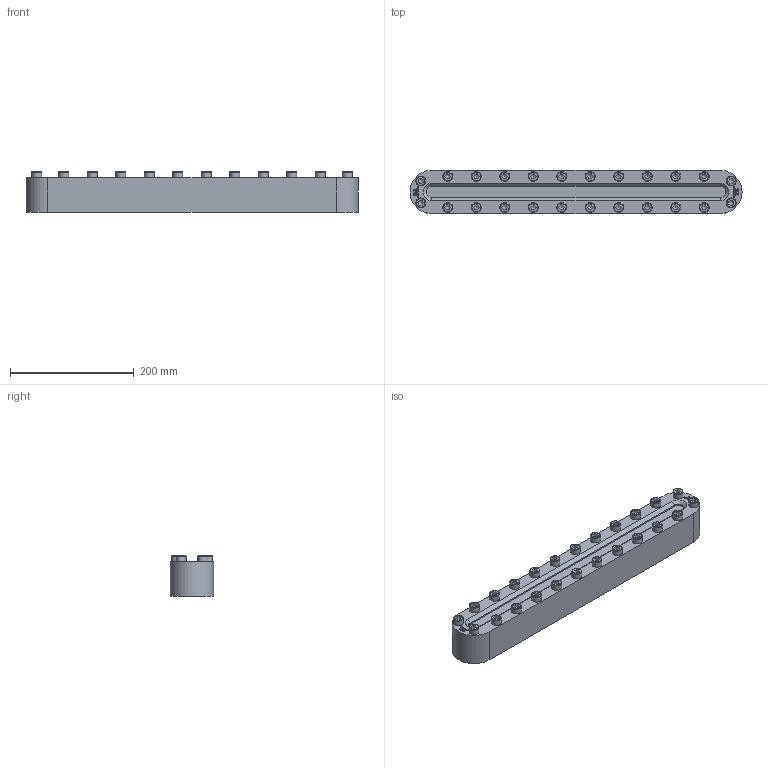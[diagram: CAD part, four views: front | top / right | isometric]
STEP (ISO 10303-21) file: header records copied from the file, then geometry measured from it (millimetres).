
FILE_DESCRIPTION(/* description */ (''),/* implementation_level */ '2;1');
FILE_NAME(/* name */ 'W:\Konstruktion_ACI\337\STEP\ACI-337-536-25.stp',/* time_stamp */ '2022-03-22T08:09:58+01:00',/* author */ ('Travnicek'),/* organization */ (''),/* preprocessor_version */ 'ST-DEVELOPER v16.1',/* originating_system */ 'Autodesk Inventor 2016',/* authorisation */ '');
FILE_SCHEMA (('AUTOMOTIVE_DESIGN { 1 0 10303 214 3 1 1 }'));
Length unit declared in the file: centimetre
Products named in the file (1): 337
Bounding box: 536 x 70 x 65.9 mm (x, y, z)
Volume: 1832118.7 mm3; surface area: 177276.9 mm2
Topology: 1 solids, 1 shells, 680 faces, 1796 edges, 1180 vertices
Faces by surface type: plane 394, bspline 206, cylinder 30, cone 26, torus 24
Full cylindrical faces by diameter (mm): 16 x24
Entity records: 21815 total; most frequent: CARTESIAN_POINT 6503, ORIENTED_EDGE 3400, DIRECTION 2180, EDGE_CURVE 1700, VERTEX_POINT 1156, LINE 1058, VECTOR 1058, EDGE_LOOP 814
